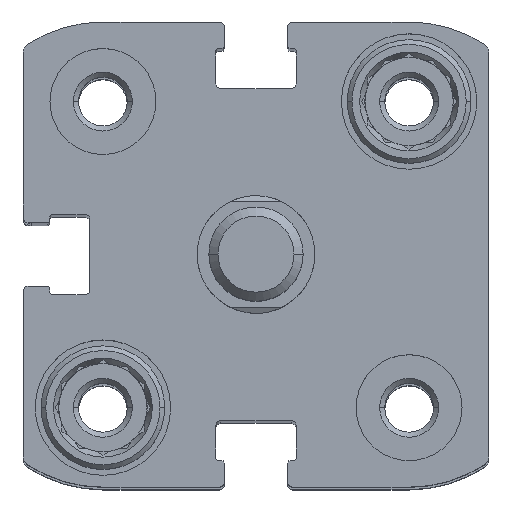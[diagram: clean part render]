
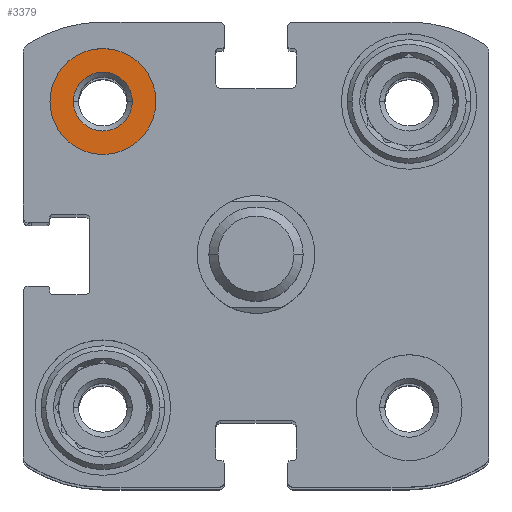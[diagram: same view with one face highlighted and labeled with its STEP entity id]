
A CAD part, top view. The second image highlights one B-rep face of the part: STEP entity #3379.
In plain terms, the highlighted planar face has unit normal (0, 0, 1).
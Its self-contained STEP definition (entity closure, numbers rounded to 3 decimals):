
#173 = EDGE_CURVE ( 'NONE', #7746, #5263, #1247, .T. ) ;
#1110 = AXIS2_PLACEMENT_3D ( 'NONE', #8794, #12810, #9820 ) ;
#1121 = AXIS2_PLACEMENT_3D ( 'NONE', #9265, #4991, #9145 ) ;
#1247 = CIRCLE ( 'NONE', #2986, 2.5 ) ;
#1296 = DIRECTION ( 'NONE',  ( -1., 0., 0. ) ) ;
#1478 = CARTESIAN_POINT ( 'NONE',  ( -15.5, 13., -4.8 ) ) ;
#1545 = CIRCLE ( 'NONE', #1110, 4.5 ) ;
#1986 = CARTESIAN_POINT ( 'NONE',  ( -13., 17.5, -4.8 ) ) ;
#2118 = DIRECTION ( 'NONE',  ( 0., 0., -1. ) ) ;
#2939 = PLANE ( 'NONE',  #4793 ) ;
#2986 = AXIS2_PLACEMENT_3D ( 'NONE', #3210, #2118, #1296 ) ;
#3141 = DIRECTION ( 'NONE',  ( 1., 0., 0. ) ) ;
#3210 = CARTESIAN_POINT ( 'NONE',  ( -13., 13., -4.8 ) ) ;
#3379 = ADVANCED_FACE ( 'NONE', ( #11155, #8098 ), #2939, .T. ) ;
#4765 = CARTESIAN_POINT ( 'NONE',  ( -17.5, 13., -4.8 ) ) ;
#4793 = AXIS2_PLACEMENT_3D ( 'NONE', #1986, #6122, #3141 ) ;
#4953 = ORIENTED_EDGE ( 'NONE', *, *, #9703, .F. ) ;
#4991 = DIRECTION ( 'NONE',  ( 0., 0., -1. ) ) ;
#5263 = VERTEX_POINT ( 'NONE', #1478 ) ;
#6122 = DIRECTION ( 'NONE',  ( 0., 0., 1. ) ) ;
#7149 = VERTEX_POINT ( 'NONE', #7154 ) ;
#7154 = CARTESIAN_POINT ( 'NONE',  ( -8.5, 13., -4.8 ) ) ;
#7317 = VERTEX_POINT ( 'NONE', #4765 ) ;
#7484 = AXIS2_PLACEMENT_3D ( 'NONE', #10847, #9956, #12947 ) ;
#7746 = VERTEX_POINT ( 'NONE', #10260 ) ;
#8098 = FACE_BOUND ( 'NONE', #13264, .T. ) ;
#8724 = ORIENTED_EDGE ( 'NONE', *, *, #11015, .F. ) ;
#8794 = CARTESIAN_POINT ( 'NONE',  ( -13., 13., -4.8 ) ) ;
#9145 = DIRECTION ( 'NONE',  ( -1., 0., 0. ) ) ;
#9265 = CARTESIAN_POINT ( 'NONE',  ( -13., 13., -4.8 ) ) ;
#9703 = EDGE_CURVE ( 'NONE', #7317, #7149, #1545, .T. ) ;
#9744 = ORIENTED_EDGE ( 'NONE', *, *, #173, .T. ) ;
#9820 = DIRECTION ( 'NONE',  ( -1., 0., 0. ) ) ;
#9846 = EDGE_CURVE ( 'NONE', #5263, #7746, #10431, .T. ) ;
#9956 = DIRECTION ( 'NONE',  ( 0., 0., -1. ) ) ;
#10260 = CARTESIAN_POINT ( 'NONE',  ( -10.5, 13., -4.8 ) ) ;
#10431 = CIRCLE ( 'NONE', #1121, 2.5 ) ;
#10847 = CARTESIAN_POINT ( 'NONE',  ( -13., 13., -4.8 ) ) ;
#11015 = EDGE_CURVE ( 'NONE', #7149, #7317, #11610, .T. ) ;
#11023 = EDGE_LOOP ( 'NONE', ( #4953, #8724 ) ) ;
#11155 = FACE_OUTER_BOUND ( 'NONE', #11023, .T. ) ;
#11610 = CIRCLE ( 'NONE', #7484, 4.5 ) ;
#11970 = ORIENTED_EDGE ( 'NONE', *, *, #9846, .T. ) ;
#12810 = DIRECTION ( 'NONE',  ( 0., 0., -1. ) ) ;
#12947 = DIRECTION ( 'NONE',  ( -1., 0., 0. ) ) ;
#13264 = EDGE_LOOP ( 'NONE', ( #9744, #11970 ) ) ;
